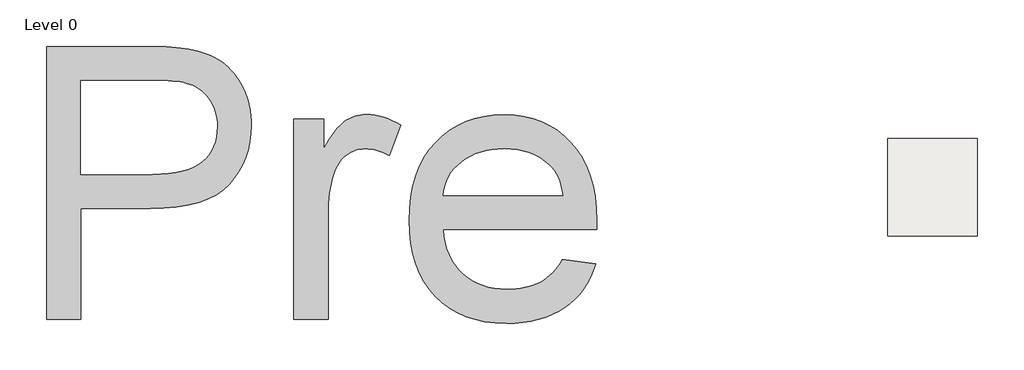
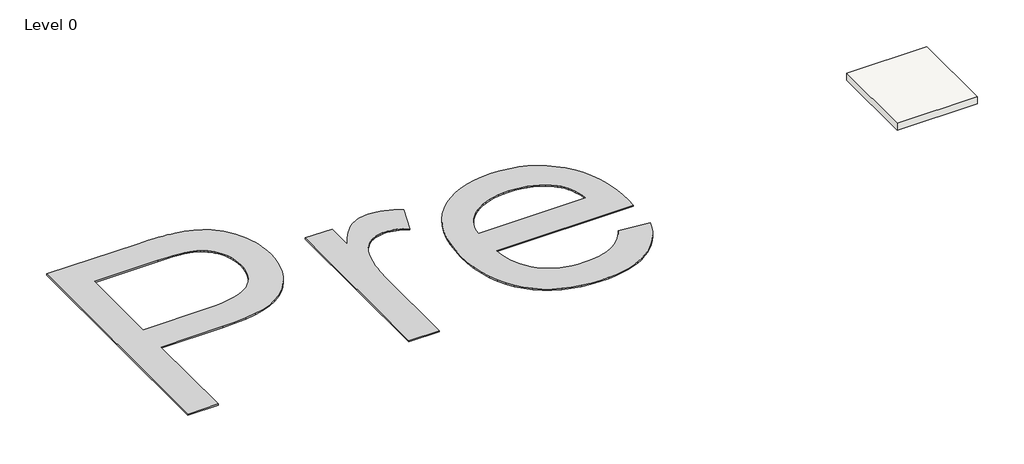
# One storey, incomplete: 1 proxy, 1 slab.
"""IFC4 building model written with IfcOpenShell, lengths in millimetres."""

import ifcopenshell
import ifcopenshell.guid

model = None  # the IFC model being written
_history = None  # IfcOwnerHistory: only IFC2X3 demands one
_inside = {}  # id of a spatial element -> (the spatial element, [elements in it])
_under = {}  # id of a project, library or spatial element -> (it, [spatial elements below it])
_declared = {}  # id of a project -> (the project, [libraries it declares])
_typed = {}  # id of a type object -> (the type object, [elements of that type])
_made_of = {}  # id of a material, layer set ... -> (it, [elements and type objects made of it])


def new_model(schema):
    """Start an empty IFC model of exactly this schema.

    Asked for "IFC4X3", IfcOpenShell would pick the latest addendum, in which some entities
    have other attributes; the version numbers below select the first issue.
    IFC2X3 requires an IfcOwnerHistory on every rooted entity: one is made here for all.
    """
    global model, _history
    if schema == "IFC4X3":
        model = ifcopenshell.file(schema_version=(4, 3, 0, 0))
    else:
        model = ifcopenshell.file(schema=schema)
    _inside.clear()
    _under.clear()
    _declared.clear()
    _typed.clear()
    _made_of.clear()
    _history = None
    if model.schema == "IFC2X3":
        org = make("IfcOrganization", Name="unknown")
        user = make(
            "IfcPersonAndOrganization",
            ThePerson=make("IfcPerson", FamilyName="unknown"),
            TheOrganization=org,
        )
        app = make(
            "IfcApplication",
            ApplicationDeveloper=org,
            Version="unknown",
            ApplicationFullName="unknown",
            ApplicationIdentifier="unknown",
        )
        _history = make(
            "IfcOwnerHistory",
            OwningUser=user,
            OwningApplication=app,
            ChangeAction="ADDED",
            CreationDate=0,
        )
    return model


def make(cls, **values):
    """One entity of the class cls with the attributes given. An attribute that is None is left unset."""
    return model.create_entity(
        cls, **{name: value for name, value in values.items() if value is not None}
    )


def rooted(cls, **values):
    """An entity with a GlobalId (a new one), such as an element, a storey or a relation."""
    return make(cls, GlobalId=ifcopenshell.guid.new(), OwnerHistory=_history, **values)


def si_unit(unit_type, name, prefix=None):
    """IfcSIUnit, for example si_unit("LENGTHUNIT", "METRE", prefix="MILLI")."""
    return make("IfcSIUnit", UnitType=unit_type, Prefix=prefix, Name=name)


def assignment(units):
    """IfcUnitAssignment: the units of a project."""
    return None if units is None else make("IfcUnitAssignment", Units=units)


def point(xyz):
    """IfcCartesianPoint."""
    return None if xyz is None else make("IfcCartesianPoint", Coordinates=xyz)


def direction(xyz):
    """IfcDirection."""
    return None if xyz is None else make("IfcDirection", DirectionRatios=xyz)


def frame(location, z_axis=None, x_axis=None):
    """IfcAxis2Placement3D, a coordinate frame: its origin and axes. An axis left out is left unset."""
    return make(
        "IfcAxis2Placement3D",
        Location=point(location),
        Axis=direction(z_axis),
        RefDirection=direction(x_axis),
    )


def origin():
    """The frame at (0, 0, 0) with its axes left unset."""
    return frame((0.0, 0.0, 0.0))


def origin_with_axes():
    """The frame at (0, 0, 0) with the z axis (0, 0, 1) and the x axis (1, 0, 0) written out."""
    return frame((0.0, 0.0, 0.0), z_axis=(0.0, 0.0, 1.0), x_axis=(1.0, 0.0, 0.0))


def place(relative_to, where):
    """IfcLocalPlacement: puts the frame where relative to a parent placement (None: the world)."""
    return make(
        "IfcLocalPlacement", PlacementRelTo=relative_to, RelativePlacement=where
    )


def context(
    kind, dimensions, precision=None, world=None, true_north=None, identifier=None
):
    """IfcGeometricRepresentationContext, for example the 3D "Model" context."""
    return make(
        "IfcGeometricRepresentationContext",
        ContextIdentifier=identifier,
        ContextType=kind,
        CoordinateSpaceDimension=dimensions,
        Precision=precision,
        WorldCoordinateSystem=world,
        TrueNorth=true_north,
    )


def project(units=None, contexts=None):
    """IfcProject with its units and contexts."""
    return rooted(
        "IfcProject",
        Name="project",
        RepresentationContexts=contexts,
        UnitsInContext=assignment(units),
    )


def spatial(cls, under=None, at=None, **own):
    """A site, building, storey or space (cls), placed at a placement, below another one or the project."""
    s = rooted(cls, ObjectPlacement=at, **own)
    if under is not None:
        _under.setdefault(under.id(), (under, []))[1].append(s)
    return s


def polyline(points):
    """IfcPolyline through the points."""
    return make("IfcPolyline", Points=[point(p) for p in points])


def outline(outer, holes=None, kind="AREA"):
    """IfcArbitraryClosedProfileDef: a profile drawn as a closed curve; with holes, ...WithVoids."""
    if holes is None:
        return make("IfcArbitraryClosedProfileDef", ProfileType=kind, OuterCurve=outer)
    return make(
        "IfcArbitraryProfileDefWithVoids",
        ProfileType=kind,
        OuterCurve=outer,
        InnerCurves=holes,
    )


def extrude(swept, where, along, depth):
    """IfcExtrudedAreaSolid: the profile swept, set in the frame where, extruded along a direction by depth."""
    return make(
        "IfcExtrudedAreaSolid",
        SweptArea=swept,
        Position=where,
        ExtrudedDirection=direction(along),
        Depth=depth,
    )


def shape(context_of_items, identifier, shape_type, items):
    """IfcShapeRepresentation: the items that make up one representation, for example the "Body"."""
    return make(
        "IfcShapeRepresentation",
        ContextOfItems=context_of_items,
        RepresentationIdentifier=identifier,
        RepresentationType=shape_type,
        Items=items,
    )


def made_of(thing, what):
    """Note that an element or type object is made of a material, layer set ...; save() writes the relation."""
    if what is not None:
        _made_of.setdefault(what.id(), (what, []))[1].append(thing)
    return thing


def element(
    cls,
    number,
    at=None,
    inside=None,
    cuts=None,
    type_object=None,
    material=None,
    context=None,
    identifier="Body",
    shape_type=None,
    held_by="IfcProductDefinitionShape",
    body=None,
    shapes=None,
    **own,
):
    """One element of the class cls, such as IfcWall. Its Tag is "e" and its number.

    at: its placement. inside: the storey or other place that contains it. cuts: it is an
    opening in that element (IfcRelVoidsElement). A single representation is given by context,
    identifier, shape_type and body (its items); several are given by shapes. held_by: the class
    of the entity that holds the representations. save() writes the other relations.
    """
    e = rooted(cls, Tag="e%d" % number, ObjectPlacement=at, **own)
    if body is not None:
        shapes = [shape(context, identifier, shape_type, body)]
    if shapes is not None:
        e.Representation = make(held_by, Representations=shapes)
    if inside is not None:
        _inside.setdefault(inside.id(), (inside, []))[1].append(e)
    if cuts is not None:
        rooted(
            "IfcRelVoidsElement", RelatingBuildingElement=cuts, RelatedOpeningElement=e
        )
    if type_object is not None:
        _typed.setdefault(type_object.id(), (type_object, []))[1].append(e)
    return made_of(e, material)


def aggregate(whole, parts):
    """IfcRelAggregates: a whole, such as a stair, and the parts it consists of."""
    return rooted("IfcRelAggregates", RelatingObject=whole, RelatedObjects=parts)


def save(model, path):
    """Write the relations noted so far, then the file.

    IfcRelAggregates (storeys below a building ...), IfcRelContainedInSpatialStructure (elements
    in a storey), IfcRelDefinesByType, IfcRelAssociatesMaterial and IfcRelDeclares: one each for
    every whole, place, type object, material and project.
    """
    for whole, parts in _under.values():
        aggregate(whole, parts)
    for where, things in _inside.values():
        rooted(
            "IfcRelContainedInSpatialStructure",
            RelatedElements=things,
            RelatingStructure=where,
        )
    for kind, things in _typed.values():
        rooted("IfcRelDefinesByType", RelatedObjects=things, RelatingType=kind)
    for what, things in _made_of.values():
        rooted("IfcRelAssociatesMaterial", RelatedObjects=things, RelatingMaterial=what)
    for by, libraries in _declared.values():
        rooted("IfcRelDeclares", RelatingContext=by, RelatedDefinitions=libraries)
    model.write(path)


model = new_model("IFC4")

# Units and contexts
model_context = context("Model", 3, world=origin())
ifc_project = project(units=[si_unit("LENGTHUNIT", "METRE", prefix="MILLI")], contexts=[model_context])

# Site, building, storey
site = spatial("IfcSite", under=ifc_project)
building = spatial("IfcBuilding", under=site)
storey = spatial("IfcBuildingStorey", under=building, Name="Level 0", Elevation=0.0)

# Proxy
placement = place(None, origin())
element("IfcBuildingElementProxy", 1, Name="10 mm", ObjectType="10 mm", at=placement, inside=storey, context=model_context, shape_type="SweptSolid", body=[
    extrude(outline(polyline([(-136005.2596005, 70710.4267394), (-136005.2596005, 80756.0577544), (-132282.2938093, 80756.0577544), (-132043.707007, 80754.5632338), (-131819.6822003, 80750.0796719), (-131610.2193893, 80742.6070689), (-131415.318574, 80732.1454247), (-131234.9797542, 80718.6947392), (-131069.2029302, 80702.2550126), (-130917.9881017, 80682.8262447), (-130781.3352689, 80660.4084356), (-130602.9316618, 80626.2452274), (-130431.9240156, 80585.0692687), (-130268.3123304, 80536.8805594), (-130112.096606, 80481.6790996), (-129963.2768427, 80419.4648893), (-129821.8530403, 80350.2379284), (-129687.8251988, 80273.998217), (-129561.1933183, 80190.7457551), (-129441.2676199, 80099.6566403), (-129327.3583251, 79999.9069701), (-129219.4654337, 79891.4967447), (-129117.5889458, 79774.4259639), (-129021.7288613, 79648.6946278), (-128931.8851803, 79514.3027365), (-128848.0579027, 79371.2502898), (-128770.2470286, 79219.5372878), (-128700.1195233, 79061.5971167), (-128639.342352, 78899.8631625), (-128587.9155148, 78734.3354251), (-128545.8390116, 78565.0139048), (-128513.1128424, 78391.8986013), (-128489.7370073, 78214.9895148), (-128475.7115063, 78034.2866452), (-128471.0363392, 77849.7899925), (-128483.6631223, 77535.2892076), (-128521.5434715, 77233.1277981), (-128584.6773868, 76943.3057637), (-128673.0648682, 76665.8231047), (-128786.7059158, 76400.6798208), (-128925.6005295, 76147.8759123), (-129089.7487093, 75907.411379), (-129279.1504553, 75679.2862209), (-129501.5082967, 75471.2029674), (-129764.5247627, 75290.8641477), (-130068.1998534, 75138.2697618), (-130412.5335688, 75013.4198097), (-130797.5259088, 74916.3142914), (-131223.1768736, 74846.9532068), (-131689.486463, 74805.3365561), (-132196.4546771, 74791.4643392), (-134749.5557236, 74791.4643392), (-134749.5557236, 70710.4267394), (-136005.2596005, 70710.4267394)]), holes=[polyline([(-134749.5557236, 76047.1682161), (-132122.878278, 76047.1682161), (-131809.105593, 76054.3725718), (-131518.9386693, 76075.9856391), (-131252.3775069, 76112.0074178), (-131009.422106, 76162.4379079), (-130790.0724663, 76227.2771096), (-130594.3285881, 76306.5250227), (-130422.1904711, 76400.1816473), (-130273.6581156, 76508.2469834), (-130145.4742329, 76629.3797945), (-130034.3815346, 76762.2388442), (-129940.3800206, 76906.8241325), (-129863.469691, 77063.1356595), (-129803.6505457, 77231.173425), (-129760.9225848, 77410.9374291), (-129735.2858083, 77602.4276718), (-129726.7402161, 77805.6441531), (-129731.779433, 77954.9429294), (-129746.8970838, 78098.7234759), (-129772.0931683, 78236.9857924), (-129807.3676867, 78369.729879), (-129852.7206389, 78496.9557357), (-129908.152025, 78618.6633624), (-129973.6618448, 78734.8527592), (-130049.2500985, 78845.5239261), (-130133.039055, 78948.8374531), (-130223.1509833, 79042.9539302), (-130319.5858834, 79127.8733574), (-130422.3437553, 79203.5957347), (-130531.424599, 79270.1210622), (-130646.8284145, 79327.4493398), (-130768.5552017, 79375.5805675), (-130896.6049608, 79414.5147453), (-130990.7980799, 79434.6332919), (-131102.9254464, 79452.0693656), (-131232.9870601, 79466.8229665), (-131380.9829211, 79478.8940944), (-131546.9130293, 79488.2827495), (-131730.7773848, 79494.9889317), (-132152.3088376, 79500.3538775), (-134749.5557236, 79500.3538775), (-134749.5557236, 76047.1682161)])]), origin_with_axes(), (0.0, 0.0, 1.0), 50.0),
    extrude(outline(polyline([(-126901.4064931, 70710.4267394), (-126901.4064931, 78087.687016), (-125802.6656009, 78087.687016), (-125802.6656009, 76996.3037637), (-125698.2024427, 77178.8652038), (-125595.7319786, 77345.1785224), (-125495.2542087, 77495.2437196), (-125396.7691329, 77629.0607954), (-125300.2767512, 77746.6297497), (-125205.7770637, 77847.9505825), (-125113.2700703, 77933.0232939), (-125022.7557711, 78001.8478838), (-124932.1648298, 78058.7546299), (-124839.4279102, 78108.0738099), (-124744.5450123, 78149.8054237), (-124647.516136, 78183.9494714), (-124548.3412815, 78210.505953), (-124447.0204487, 78229.4748683), (-124343.5536375, 78240.8562176), (-124237.9408481, 78244.6500006), (-124082.5107051, 78238.5952761), (-123926.4674255, 78220.4311026), (-123769.8110092, 78190.1574801), (-123612.5414563, 78147.7744086), (-123454.6587667, 78093.281888), (-123296.1629404, 78026.6799185), (-123137.0539775, 77947.9684999), (-122977.3318779, 77857.1476324), (-123396.7173524, 76731.4287271), (-123507.081951, 76791.784367), (-123617.4465495, 76844.0925882), (-123727.8111481, 76888.3533907), (-123838.1757466, 76924.5667746), (-123948.5403452, 76952.7327399), (-124058.9049437, 76972.8512865), (-124169.2695423, 76984.9224144), (-124279.6341408, 76988.9461238), (-124377.1037091, 76985.0756986), (-124472.0824096, 76973.4644231), (-124564.5702424, 76954.1122973), (-124654.5672076, 76927.0193212), (-124742.0733051, 76892.1854948), (-124827.0885349, 76849.6108181), (-124909.6128971, 76799.295291), (-124989.6463915, 76741.2389137), (-125065.6561767, 76676.3230699), (-125136.1094109, 76605.4291438), (-125201.0060941, 76528.5571352), (-125260.3462263, 76445.7070442), (-125314.1298076, 76356.8788708), (-125362.3568379, 76262.072615), (-125405.0273172, 76161.2882767), (-125442.1412456, 76054.525856), (-125489.8509419, 75885.1468541), (-125531.1993453, 75711.7824638), (-125566.1864559, 75534.4326853), (-125594.8122736, 75353.0975185), (-125617.0767985, 75167.7769635), (-125632.9800306, 74978.4710201), (-125642.5219699, 74785.1796885), (-125645.7026163, 74587.9029686), (-125645.7026163, 70710.4267394), (-126901.4064931, 70710.4267394)])), origin_with_axes(), (0.0, 0.0, 1.0), 50.0),
    extrude(outline(polyline([(-117027.4537426, 72907.9085239), (-115796.2753321, 72750.9455393), (-115882.4018721, 72497.0686416), (-115985.0447808, 72257.8303816), (-116104.2040583, 72033.2307594), (-116239.8797046, 71823.2697748), (-116392.0717196, 71627.947428), (-116560.7801033, 71447.2637189), (-116746.0048558, 71281.2186476), (-116947.745977, 71129.8122139), (-117165.0071199, 70994.7305438), (-117396.7919373, 70877.6597631), (-117643.1004294, 70778.5998716), (-117903.9325961, 70697.5508696), (-118179.2884374, 70634.5127569), (-118469.1679533, 70589.4855335), (-118773.5711438, 70562.4691995), (-119092.4980089, 70553.4637548), (-119492.6846417, 70569.002937), (-119871.6414178, 70615.6204836), (-120229.3683371, 70693.3163945), (-120565.8653995, 70802.0906699), (-120881.1326052, 70941.9433096), (-121175.1699541, 71112.8743137), (-121447.9774461, 71314.8836822), (-121699.5550813, 71547.9714151), (-121925.457619, 71809.1101501), (-122121.2398183, 72095.272525), (-122286.9016793, 72406.4585398), (-122422.4432019, 72742.6681944), (-122527.8643861, 73103.901489), (-122603.165232, 73490.1584234), (-122648.3457395, 73901.4389977), (-122663.4059087, 74337.7432119), (-122648.1924554, 74788.8968295), (-122602.5520953, 75214.0687812), (-122526.4848286, 75613.259067), (-122419.9906552, 75986.4676869), (-122283.0695752, 76333.6946409), (-122115.7215884, 76654.939929), (-121917.9466949, 76950.2035511), (-121689.7448948, 77219.4855074), (-121437.2858756, 77459.7584355), (-121166.739325, 77667.9949732), (-120878.1052429, 77844.1951205), (-120571.3836295, 77988.3588773), (-120246.5744846, 78100.4862438), (-119903.6778082, 78180.5772198), (-119542.6936005, 78228.6318054), (-119163.6218613, 78244.6500006), (-118796.9469789, 78228.6701265), (-118447.4016019, 78180.730504), (-118114.9857303, 78100.8311331), (-117799.6993641, 77988.972014), (-117501.5425034, 77845.1531465), (-117220.515148, 77669.3745307), (-116956.617298, 77461.6361665), (-116709.8489534, 77221.938054), (-116486.533086, 76953.2692344), (-116292.9926676, 76658.6187489), (-116129.2276982, 76337.9865975), (-115995.2381778, 75991.3727802), (-115891.0241064, 75618.7772969), (-115816.5854839, 75220.2001478), (-115771.9223104, 74795.6413327), (-115757.0345859, 74345.1008518), (-115764.3922258, 74006.6494162), (-121407.7020318, 74006.6494162), (-121380.3216479, 73748.3272777), (-121334.9686957, 73505.5634819), (-121271.6431752, 73278.3580289), (-121190.3450864, 73066.7109185), (-121091.0744292, 72870.6221509), (-120973.8312038, 72690.091726), (-120838.61541, 72525.1196437), (-120685.427048, 72375.7059042), (-120518.2515059, 72242.9234966), (-120341.0741721, 72127.84541), (-120153.8950465, 72030.4716444), (-119956.7141292, 71950.8021998), (-119749.5314201, 71888.8370763), (-119532.3469193, 71844.5762737), (-119305.1606268, 71818.0197922), (-119067.9725425, 71809.1676317), (-118891.0059744, 71813.2679831), (-118720.6306254, 71825.5690373), (-118556.8464955, 71846.0707943), (-118399.6535846, 71874.7732541), (-118249.0518928, 71911.6764168), (-118105.0414201, 71956.7802822), (-117967.6221665, 72010.0848505), (-117836.794132, 72071.5901216), (-117712.5573165, 72142.0625163), (-117594.9117202, 72222.2684554), (-117483.8573429, 72312.207939), (-117379.3941847, 72411.8809671), (-117281.5222455, 72521.2875396), (-117190.2415255, 72640.4276566), (-117105.5520245, 72769.301318), (-117027.4537426, 72907.9085239)]), holes=[polyline([(-121407.7020318, 75262.3532931), (-117012.7384628, 75262.3532931), (-117039.908081, 75445.9110802), (-117077.2710961, 75617.6659867), (-117124.8275082, 75777.6180126), (-117182.5773172, 75925.7671577), (-117250.5205232, 76062.1134222), (-117328.6571261, 76186.6568059), (-117416.987126, 76299.3973091), (-117515.5105229, 76400.3349315), (-117680.8274944, 76538.2906797), (-117857.9473467, 76657.8523281), (-118046.8700796, 76759.0198768), (-118247.5956933, 76841.7933257), (-118460.1241876, 76906.1726748), (-118684.4555625, 76952.1579242), (-118920.5898182, 76979.7490739), (-119168.5269545, 76988.9461238), (-119393.8738371, 76981.6076444), (-119610.0619908, 76959.5922062), (-119817.0914157, 76922.8998093), (-120014.9621118, 76871.5304536), (-120203.674079, 76805.4841392), (-120383.2273174, 76724.760866), (-120553.6218269, 76629.360634), (-120714.8576076, 76519.2834433), (-120862.757666, 76396.9051983), (-120993.1450085, 76264.6018037), (-121106.0196353, 76122.3732594), (-121201.3815462, 75970.2195655), (-121279.2307413, 75808.1407218), (-121339.5672206, 75636.1367286), (-121382.3909841, 75454.2075857), (-121407.7020318, 75262.3532931)])]), origin_with_axes(), (0.0, 0.0, 1.0), 50.0),
])

# Slab
element("IfcSlab", 2, ObjectType="FL_300 mm_Generic", at=placement, inside=storey, context=model_context, shape_type="SweptSolid", body=[
    extrude(outline(polyline([(-101747.8885325, 77369.9753886), (-101747.8885325, 73769.9753886), (-105047.8885325, 73769.9753886), (-105047.8885325, 77369.9753886), (-101747.8885325, 77369.9753886)])), frame((0.0, 0.0, -300.0), z_axis=(0.0, 0.0, 1.0), x_axis=(1.0, 0.0, 0.0)), (0.0, 0.0, 1.0), 300.0),
])

save(model, "model.ifc")
